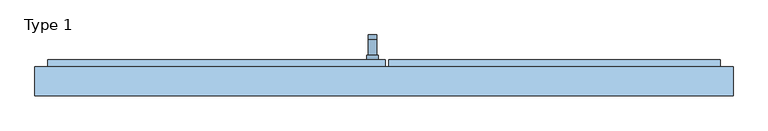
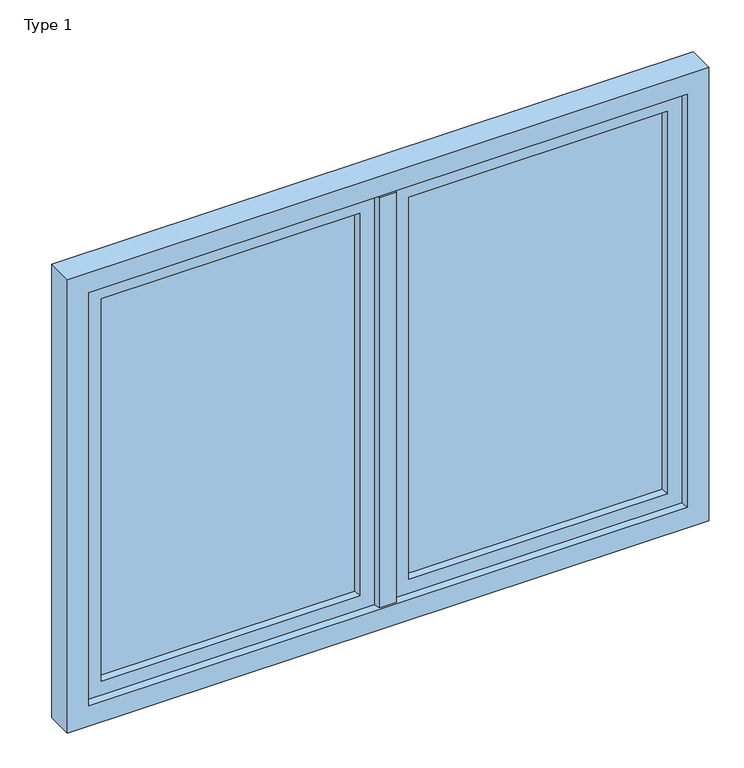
"""IFC4 building model written with IfcOpenShell, lengths in millimetres: window geometry, Schueco_LivIng-82-AS_Window_inw_Family-20 : Type 1."""

from ifc_helpers import new_model, si_unit, point, frame, frame_2d, origin, place, context, project, spatial, polyline, circle_curve, ellipse_curve, trimmed, segment, composite_curve, outline, extrude, faceted_brep, source, transform, mapped, element, save
from ifc_brep_helpers import plane_surface, cylinder_surface, extruded_surface, advanced_brep


def type_1_537f2f89(model_context):
    return source(origin(), model_context, "Body", "SolidModel", [
        advanced_brep(
        [(-44.9886308, 32.9997898, 1410.0), (-21.0113692, 32.9997898, 1410.0), (-21.0113692, 32.9997898, 1278.6867153), (-44.9886308, 32.9997898, 1278.6867153), (-21.0113692, 20.4997028, 1410.0), (-44.9886308, 20.4997028, 1410.0), (-44.9886308, 20.4997028, 1278.6867153), (-21.0113692, 20.4997028, 1278.6867153), (-44.9886308, -24.0001797, 1410.0), (-21.0113692, -24.0001797, 1410.0)],
        [
            (0, 1, circle_curve(frame((-33.0, 32.9997898, 1410.0), z_axis=(0.0, 1.0, 0.0), x_axis=(1.0, 0.0, 0.0)), 11.9886308)),
            (1, 2),
            (2, 3, ellipse_curve(frame((-33.0, 32.9997898, 1278.6867153), z_axis=(0.0, 1.0, 0.0), x_axis=(-1.0, 0.0, 0.0)), 11.9886308, 7.9050795)),
            (3, 0),
            (4, 5, circle_curve(frame((-33.0, 20.4997028, 1410.0), z_axis=(0.0, 1.0, 0.0), x_axis=(1.0, 0.0, 0.0)), 11.9886308)),
            (5, 6),
            (6, 7, ellipse_curve(frame((-33.0, 20.4997028, 1278.6867153), z_axis=(0.0, -1.0, 0.0), x_axis=(-1.0, 0.0, 0.0)), 11.9886308, 7.9050795)),
            (7, 4),
            (3, 6),
            (5, 0),
            (2, 7),
            (1, 4),
            (5, 4, circle_curve(frame((-33.0, 20.4997028, 1410.0), z_axis=(0.0, 1.0, 0.0), x_axis=(1.0, 0.0, 0.0)), 11.9886308)),
            (8, 9, circle_curve(frame((-33.0, -24.0001797, 1410.0), z_axis=(0.0, -1.0, 0.0), x_axis=(1.0, 0.0, 0.0)), 11.9886308)),
            (9, 8, circle_curve(frame((-33.0, -24.0001797, 1410.0), z_axis=(0.0, -1.0, 0.0), x_axis=(1.0, 0.0, 0.0)), 11.9886308)),
            (8, 5),
            (4, 9),
        ],
        [
            plane_surface(frame((-44.9886308, 32.9997898, 1288.3382074), z_axis=(0.0, 1.0, 0.0), x_axis=(0.0, 0.0, -1.0))),
            plane_surface(frame((-44.9886308, 20.4997028, 1288.3382074), z_axis=(0.0, -1.0, 0.0), x_axis=(0.0, 0.0, 1.0))),
            plane_surface(frame((-44.9886308, 32.9997898, 1410.0), z_axis=(-1.0, 0.0, 0.0), x_axis=(0.0, -1.0, 0.0))),
            extruded_surface(trimmed(ellipse_curve(frame((-33.0, 20.4997028, 1278.6867153), z_axis=(0.0, -1.0, 0.0), x_axis=(-1.0, 0.0, 0.0)), 11.9886308, 7.9050795), [point((-44.9886308, 20.4997028, 1278.6867153))], [point((-21.0113692, 20.4997028, 1278.6867153))], True, "CARTESIAN"), (0.0, -12.500087, 0.0), 12.500087),
            plane_surface(frame((-21.0113692, 32.9997898, 1278.6867153), z_axis=(1.0, 0.0, 0.0), x_axis=(0.0, -1.0, 0.0))),
            cylinder_surface(frame((-33.0, 20.4997028, 1410.0), z_axis=(0.0, 1.0, 0.0), x_axis=(1.0, 0.0, 0.0)), 11.9886308),
            plane_surface(frame((-21.0113692, -24.0001797, 1410.0), z_axis=(0.0, -1.0, 0.0), x_axis=(0.0, 0.0, -1.0))),
            cylinder_surface(frame((-33.0, -24.0001797, 1410.0), z_axis=(0.0, 1.0, 0.0), x_axis=(1.0, 0.0, 0.0)), 11.9886308),
        ],
        [
            (0, [[1, 2, 3, 4]]),
            (1, [[5, 6, 7, 8]]),
            (2, [[9, -6, 10, -4]]),
            (3, [[11, -7, -9, -3]]),
            (4, [[12, -8, -11, -2]]),
            (5, [[-10, 13, -12, -1]]),
            (6, [[14, 15]]),
            (7, [[16, -5, 17, -14]]),
            (7, [[-17, -13, -16, -15]]),
        ],
    ),
        extrude(outline(composite_curve([segment(polyline([(1428.75, -49.25), (1391.25, -49.25)]), True, "CONTINUOUS"), segment(trimmed(circle_curve(frame_2d((1391.25, -33.0)), 16.25), [point((1391.25, -49.25))], [point((1391.25, -16.75))], False, "CARTESIAN"), True, "CONTINUOUS"), segment(polyline([(1391.25, -16.75), (1428.75, -16.75)]), True, "CONTINUOUS"), segment(trimmed(circle_curve(frame_2d((1428.75, -33.0)), 16.25), [point((1428.75, -16.75))], [point((1428.75, -49.25))], False, "CARTESIAN"), True, "CONTINUOUS")], self_intersect=False)), frame((0.0, -38.0001797, 0.0), z_axis=(0.0, 1.0, 0.0), x_axis=(0.0, 0.0, 1.0)), (0.0, 0.0, 1.0), 14.0),
        faceted_brep([(15.9998644, -58.0, 2233.0001356), (15.9998644, -58.0, 866.9998644), (15.9998644, -120.0001797, 866.9998644), (15.9998644, -120.0001797, 2233.0001356), (933.0001356, -120.0001797, 866.9998644), (933.0001356, -120.0001797, 2233.0001356), (75.1322392, -120.0001797, 2173.8677608), (873.8677608, -120.0001797, 2173.8677608), (873.8677608, -120.0001797, 926.1322392), (75.1322392, -120.0001797, 926.1322392), (933.0001356, -58.0, 866.9998644), (953.0001356, -58.0, 2253.0001356), (13.0208109, -58.0, 2253.0001356), (13.0208109, -58.0, 846.9998644), (953.0001356, -58.0, 846.9998644), (933.0001356, -58.0, 2233.0001356), (53.9998644, -100.9991032, 2195.0001356), (53.9998644, -100.9991032, 904.9998644), (53.9998644, -38.0001797, 904.9998644), (53.9998644, -38.0001797, 2195.0001356), (953.0001356, -38.0001797, 846.9998644), (13.0208109, -38.0001797, 846.9998644), (13.0208109, -38.0001797, 2253.0001356), (953.0001356, -38.0001797, 2253.0001356), (895.0001356, -38.0001797, 904.9998644), (895.0001356, -38.0001797, 2195.0001356), (895.0001356, -100.9991032, 904.9998644), (895.0001356, -100.9991032, 2195.0001356), (868.7764377, -100.9991032, 2168.7764377), (80.2235623, -100.9991032, 2168.7764377), (80.2235623, -100.9991032, 931.2235623), (868.7764377, -100.9991032, 931.2235623)], [[[0, 1, 2, 3]], [[3, 2, 4, 5], [6, 7, 8, 9]], [[1, 10, 4, 2]], [[11, 12, 13, 14], [15, 10, 1, 0]], [[16, 17, 18, 19]], [[20, 21, 22, 23], [19, 18, 24, 25]], [[17, 26, 24, 18]], [[27, 26, 17, 16], [28, 29, 30, 31]], [[5, 4, 10, 15]], [[25, 24, 26, 27]], [[14, 13, 21, 20]], [[11, 14, 20, 23]], [[9, 30, 29, 6]], [[8, 31, 30, 9]], [[7, 28, 31, 8]], [[15, 0, 3, 5]], [[27, 16, 19, 25]], [[23, 22, 12, 11]], [[6, 29, 28, 7]], [[22, 21, 13, 12]]]),
        faceted_brep([(53.9998644, -39.499499, 2195.0001356), (53.9998644, -39.499499, 904.9998644), (53.9998644, -64.9991032, 904.9998644), (53.9998644, -64.9991032, 2195.0001356), (895.0001356, -64.9991032, 2195.0001356), (895.0001356, -64.9991032, 904.9998644), (78.0642509, -64.9991032, 2170.9357491), (870.9357491, -64.9991032, 2170.9357491), (870.9357491, -64.9991032, 929.0642509), (78.0642509, -64.9991032, 929.0642509), (895.0001356, -39.499499, 904.9998644), (55.4991837, -38.0001797, 2193.5008163), (55.4991837, -38.0001797, 906.4991837), (895.0001356, -39.499499, 2195.0001356), (893.5008163, -38.0001797, 906.4991837), (70.8299112, -38.0001797, 921.8299112), (70.8299112, -38.0001797, 2178.1700888), (878.1700888, -38.0001797, 921.8299112), (878.1700888, -38.0001797, 2178.1700888), (893.5008163, -38.0001797, 2193.5008163)], [[[0, 1, 2, 3]], [[4, 3, 2, 5], [6, 7, 8, 9]], [[1, 10, 5, 2]], [[11, 12, 1, 0]], [[10, 13, 4, 5]], [[12, 14, 10, 1]], [[6, 9, 15, 16]], [[9, 8, 17, 15]], [[8, 7, 18, 17]], [[11, 19, 14, 12], [18, 16, 15, 17]], [[14, 19, 13, 10]], [[13, 0, 3, 4]], [[7, 6, 16, 18]], [[19, 11, 0, 13]]]),
        extrude(outline(polyline([(53.9998644, -100.9991032), (53.9998644, -64.9991032), (895.0001356, -64.9991032), (895.0001356, -100.9991032), (53.9998644, -100.9991032)])), frame((0.0, 0.0, 904.9998644), z_axis=(0.0, 0.0, 1.0), x_axis=(1.0, 0.0, 0.0)), (0.0, 0.0, 1.0), 1290.0002713),
        faceted_brep([(-53.9998644, -64.9991032, 2195.0001356), (-53.9998644, -64.9991032, 904.9998644), (-53.9998644, -39.499499, 904.9998644), (-53.9998644, -39.499499, 2195.0001356), (-55.4991837, -38.0001797, 906.4991837), (-55.4991837, -38.0001797, 2193.5008163), (-895.0001356, -64.9991032, 904.9998644), (-895.0001356, -39.499499, 904.9998644), (-895.0001356, -64.9991032, 2195.0001356), (-870.9357491, -64.9991032, 2170.9357491), (-78.0642509, -64.9991032, 2170.9357491), (-78.0642509, -64.9991032, 929.0642509), (-870.9357491, -64.9991032, 929.0642509), (-893.5008163, -38.0001797, 906.4991837), (-895.0001356, -39.499499, 2195.0001356), (-878.1700888, -38.0001797, 921.8299112), (-878.1700888, -38.0001797, 2178.1700888), (-70.8299112, -38.0001797, 921.8299112), (-70.8299112, -38.0001797, 2178.1700888), (-893.5008163, -38.0001797, 2193.5008163)], [[[0, 1, 2, 3]], [[3, 2, 4, 5]], [[1, 6, 7, 2]], [[0, 8, 6, 1], [9, 10, 11, 12]], [[2, 7, 13, 4]], [[6, 8, 14, 7]], [[15, 16, 9, 12]], [[17, 15, 12, 11]], [[18, 17, 11, 10]], [[19, 5, 4, 13], [18, 16, 15, 17]], [[7, 14, 19, 13]], [[8, 0, 3, 14]], [[16, 18, 10, 9]], [[14, 3, 5, 19]]]),
        faceted_brep([(-15.9998644, -120.0001797, 2233.0001356), (-15.9998644, -120.0001797, 866.9998644), (-15.9998644, -58.0, 866.9998644), (-15.9998644, -58.0, 2233.0001356), (4.0001356, -58.0, 2253.0001356), (-953.0001356, -58.0, 2253.0001356), (-953.0001356, -58.0, 846.9998644), (4.0001356, -58.0, 846.9998644), (-933.0001356, -58.0, 2233.0001356), (-933.0001356, -58.0, 866.9998644), (-933.0001356, -120.0001797, 866.9998644), (-933.0001356, -120.0001797, 2233.0001356), (-873.8677608, -120.0001797, 2173.8677608), (-75.1322392, -120.0001797, 2173.8677608), (-75.1322392, -120.0001797, 926.1322392), (-873.8677608, -120.0001797, 926.1322392), (-53.9998644, -38.0001797, 2195.0001356), (-53.9998644, -38.0001797, 904.9998644), (-53.9998644, -100.9991032, 904.9998644), (-53.9998644, -100.9991032, 2195.0001356), (-895.0001356, -100.9991032, 2195.0001356), (-895.0001356, -100.9991032, 904.9998644), (-80.2235623, -100.9991032, 2168.7764377), (-868.7764377, -100.9991032, 2168.7764377), (-868.7764377, -100.9991032, 931.2235623), (-80.2235623, -100.9991032, 931.2235623), (-895.0001356, -38.0001797, 904.9998644), (-953.0001356, -38.0001797, 2253.0001356), (4.0001356, -38.0001797, 2253.0001356), (4.0001356, -38.0001797, 846.9998644), (-953.0001356, -38.0001797, 846.9998644), (-895.0001356, -38.0001797, 2195.0001356)], [[[0, 1, 2, 3]], [[4, 5, 6, 7], [8, 3, 2, 9]], [[1, 10, 9, 2]], [[0, 11, 10, 1], [12, 13, 14, 15]], [[16, 17, 18, 19]], [[20, 19, 18, 21], [22, 23, 24, 25]], [[17, 26, 21, 18]], [[27, 28, 29, 30], [16, 31, 26, 17]], [[4, 7, 29, 28]], [[7, 6, 30, 29]], [[10, 11, 8, 9]], [[26, 31, 20, 21]], [[6, 5, 27, 30]], [[24, 23, 12, 15]], [[25, 24, 15, 14]], [[22, 25, 14, 13]], [[11, 0, 3, 8]], [[31, 16, 19, 20]], [[5, 4, 28, 27]], [[23, 22, 13, 12]]]),
        extrude(outline(polyline([(-895.0001356, -100.9991032), (-895.0001356, -64.9991032), (-53.9998644, -64.9991032), (-53.9998644, -100.9991032), (-895.0001356, -100.9991032)])), frame((0.0, 0.0, 904.9998644), z_axis=(0.0, 0.0, 1.0), x_axis=(1.0, 0.0, 0.0)), (0.0, 0.0, 1.0), 1290.0002713),
        extrude(outline(polyline([(-4.0, -120.0001797), (-4.0, -57.9880736), (15.9998644, -57.9880736), (15.9998644, -120.0001797), (30.4881148, -120.0001797), (25.1291482, -140.0001153), (-25.1291482, -140.0001153), (-30.4881148, -120.0001797), (-4.0, -120.0001797)])), frame((0.0, 0.0, 881.4913105), z_axis=(0.0, 0.0, 1.0), x_axis=(1.0, 0.0, 0.0)), (0.0, 0.0, 1.0), 1337.017379),
        faceted_brep([(945.0, -120.0001797, 855.0), (-945.0, -120.0001797, 855.0), (-945.0, -120.0001797, 2245.0), (945.0, -120.0001797, 2245.0), (-918.5086895, -120.0001797, 881.4913105), (918.5086895, -120.0001797, 881.4913105), (918.5086895, -120.0001797, 2218.5086895), (-918.5086895, -120.0001797, 2218.5086895), (990.0, -140.0, 810.0), (990.0, -140.0, 2290.0), (-990.0, -140.0, 2290.0), (-990.0, -140.0, 810.0), (923.8676252, -140.0, 2223.8676252), (923.8676252, -140.0, 876.1323748), (-923.8676252, -140.0, 876.1323748), (-923.8676252, -140.0, 2223.8676252), (-990.0, -58.0, 810.0), (990.0, -58.0, 810.0), (990.0, -58.0, 2290.0), (-990.0, -58.0, 2290.0), (945.0, -58.0, 855.0), (945.0, -58.0, 2245.0), (-945.0, -58.0, 2245.0), (-945.0, -58.0, 855.0)], [[[0, 1, 2, 3], [4, 5, 6, 7]], [[8, 9, 10, 11], [12, 13, 14, 15]], [[16, 17, 8, 11]], [[17, 18, 9, 8]], [[18, 17, 16, 19], [20, 21, 22, 23]], [[19, 16, 11, 10]], [[2, 1, 23, 22]], [[1, 0, 20, 23]], [[0, 3, 21, 20]], [[18, 19, 10, 9]], [[3, 2, 22, 21]], [[13, 12, 6, 5]], [[15, 14, 4, 7]], [[14, 13, 5, 4]], [[12, 15, 7, 6]]]),
    ])


if __name__ == "__main__":
    model = new_model("IFC4")
    model_context = context("Model", 3, world=origin())
    ifc_project = project(units=[si_unit("LENGTHUNIT", "METRE", prefix="MILLI")], contexts=[model_context])
    site = spatial("IfcSite", under=ifc_project)
    building = spatial("IfcBuilding", under=site)
    placement = place(None, origin())
    type_1_shape = type_1_537f2f89(model_context)
    element("IfcWindow", 1, ObjectType="Schueco_LivIng-82-AS_Window_inw_Family-20 : Type 1", at=placement, inside=building, context=model_context, shape_type="MappedRepresentation", body=[
        mapped(type_1_shape, transform((0.0, 0.0, 0.0), x_axis=(1.0, 0.0, 0.0), y_axis=(0.0, 1.0, 0.0), z_axis=(0.0, 0.0, 1.0))),
    ])
    save(model, "model.ifc")
